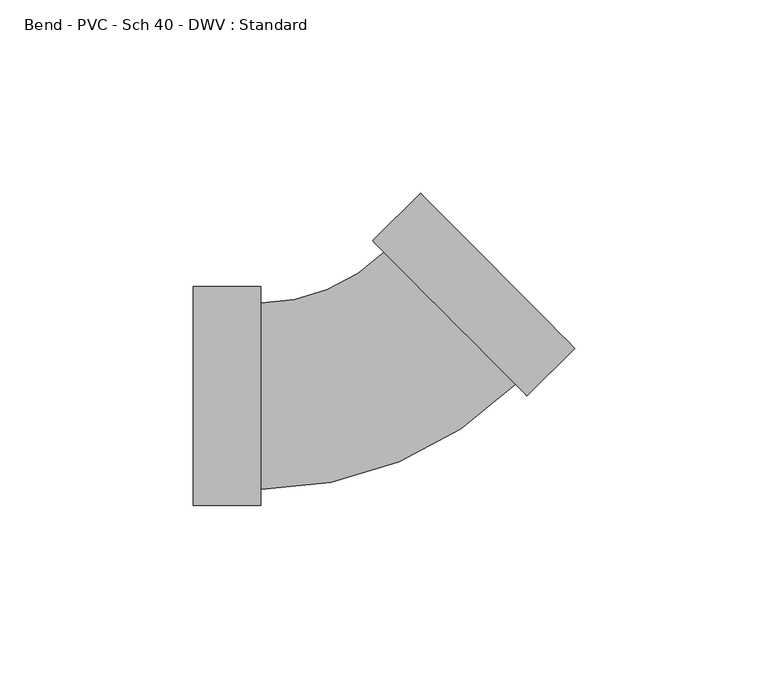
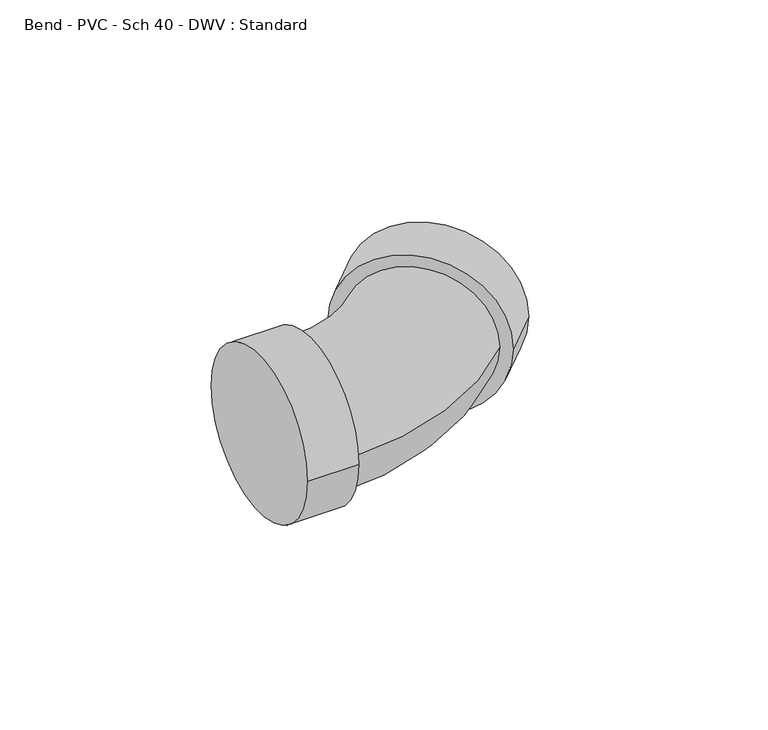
"""IFC4 building model written with IfcOpenShell, lengths in millimetres: pipe fitting geometry, Bend - PVC - Sch 40 - DWV : Standard."""

from ifc_helpers import new_model, si_unit, point, frame, origin, place, context, project, spatial, circle_curve, ellipse_curve, trimmed, source, transform, mapped, element, save
from ifc_brep_helpers import plane_surface, cylinder_surface, revolved_surface, advanced_brep


def bend_pvc_sch_40_dwv_standard_9b1ab2e2(model_context):
    return source(origin(), model_context, "Body", "AdvancedBrep", [
        advanced_brep(
        [(-46.0248, -28.2829, 0.0), (-46.0248, 28.2829, 0.0), (-28.575, -28.2829, 0.0), (-28.575, 28.2829, 0.0), (-28.575, -24.13, 0.0), (-28.575, 24.13, 0.0), (3.2900578, 37.255376, 0.0), (37.28017, 2.9960726, 0.0), (40.2051086, 0.0479694, 0.0), (0.3651192, 40.2034793, 0.0), (52.5925515, 12.3380783, 0.0), (12.7525621, 52.4935882, 0.0)],
        [
            (0, 1, circle_curve(frame((-46.0248, 0.0, 0.0), z_axis=(-1.0, 0.0, 0.0), x_axis=(0.0, 1.0, 0.0)), 28.2829)),
            (1, 0, circle_curve(frame((-46.0248, 0.0, 0.0), z_axis=(-1.0, 0.0, 0.0), x_axis=(0.0, 1.0, 0.0)), 28.2829)),
            (2, 3, circle_curve(frame((-28.575, 0.0, 0.0), z_axis=(1.0, 0.0, 0.0), x_axis=(0.0, 1.0, 0.0)), 28.2829)),
            (3, 2, circle_curve(frame((-28.575, 0.0, 0.0), z_axis=(1.0, 0.0, 0.0), x_axis=(0.0, 1.0, 0.0)), 28.2829)),
            (4, 5, circle_curve(frame((-28.575, 0.0, 0.0), z_axis=(-1.0, 0.0, 0.0), x_axis=(0.0, 1.0, 0.0)), 24.13)),
            (5, 4, circle_curve(frame((-28.575, 0.0, 0.0), z_axis=(-1.0, 0.0, 0.0), x_axis=(0.0, 1.0, 0.0)), 24.13)),
            (0, 2),
            (3, 1),
            (6, 5, circle_curve(frame((-28.575, 69.3727954, 0.0), z_axis=(0.0, 0.0, -1.0), x_axis=(0.0, -1.0, 0.0)), 45.2427954)),
            (4, 7, circle_curve(frame((-28.575, 69.3727954, 0.0), z_axis=(0.0, 0.0, 1.0), x_axis=(0.0, -1.0, 0.0)), 93.5027954)),
            (7, 6, circle_curve(frame((20.2851139, 20.1257243, 0.0), z_axis=(-0.7098902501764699, -0.7043123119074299, 0.0), x_axis=(-0.7043123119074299, 0.7098902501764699, 0.0)), 24.13)),
            (6, 7, circle_curve(frame((20.2851139, 20.1257243, 0.0), z_axis=(-0.7098902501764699, -0.7043123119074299, 0.0), x_axis=(-0.7043123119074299, 0.7098902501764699, 0.0)), 24.13)),
            (8, 9, circle_curve(frame((20.2851139, 20.1257243, 0.0), z_axis=(-0.709890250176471, -0.7043123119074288, 0.0), x_axis=(-0.7043123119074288, 0.709890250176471, 0.0)), 28.2829)),
            (9, 8, circle_curve(frame((20.2851139, 20.1257243, 0.0), z_axis=(-0.709890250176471, -0.7043123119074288, 0.0), x_axis=(-0.7043123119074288, 0.709890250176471, 0.0)), 28.2829)),
            (10, 11, circle_curve(frame((32.6725568, 32.4158333, 0.0), z_axis=(0.709890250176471, 0.7043123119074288, 0.0), x_axis=(-0.7043123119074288, 0.709890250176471, 0.0)), 28.2829)),
            (11, 10, circle_curve(frame((32.6725568, 32.4158333, 0.0), z_axis=(0.709890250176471, 0.7043123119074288, 0.0), x_axis=(-0.7043123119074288, 0.709890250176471, 0.0)), 28.2829)),
            (8, 10),
            (11, 9),
        ],
        [
            plane_surface(frame((-46.0248, 0.0, 0.0), z_axis=(-1.0, 0.0, 0.0), x_axis=(0.0, 0.0, 1.0))),
            plane_surface(frame((-28.575, 0.0, 0.0), z_axis=(1.0, 0.0, 0.0), x_axis=(0.0, 0.0, 1.0))),
            cylinder_surface(frame((-46.0248, 0.0, 0.0), z_axis=(-1.0, 0.0, 0.0), x_axis=(0.0, 1.0, 0.0)), 28.2829),
            revolved_surface(trimmed(ellipse_curve(frame((-28.575, 0.0, 0.0), z_axis=(-1.0, 0.0, 0.0), x_axis=(0.0, 1.0, 0.0)), 24.13, 24.13), [point((-28.575, -24.13, 0.0))], [point((-28.575, 24.13, 0.0))], True, "CARTESIAN"), (-28.575, 69.3727954, 0.0), (0.0, 0.0, 1.0)),
            revolved_surface(trimmed(ellipse_curve(frame((-28.575, 0.0, 0.0), z_axis=(-1.0, 0.0, 0.0), x_axis=(0.0, 1.0, 0.0)), 24.13, 24.13), [point((-28.575, 24.13, 0.0))], [point((-28.575, -24.13, 0.0))], True, "CARTESIAN"), (-28.575, 69.3727954, 0.0), (0.0, 0.0, 1.0)),
            plane_surface(frame((20.2851139, 20.1257243, 0.0), z_axis=(-0.709890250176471, -0.7043123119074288, 0.0), x_axis=(0.0, 0.0, 1.0))),
            plane_surface(frame((32.6725568, 32.4158333, 0.0), z_axis=(0.709890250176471, 0.7043123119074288, 0.0), x_axis=(0.0, 0.0, 1.0))),
            cylinder_surface(frame((20.2851139, 20.1257243, 0.0), z_axis=(-0.709890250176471, -0.7043123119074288, 0.0), x_axis=(-0.7043123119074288, 0.709890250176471, 0.0)), 28.2829),
        ],
        [
            (0, [[1, 2]]),
            (1, [[3, 4], [5, 6]]),
            (2, [[-1, 7, -4, 8]]),
            (2, [[-2, -8, -3, -7]]),
            (3, [[9, -5, 10, 11]]),
            (4, [[-9, 12, -10, -6]]),
            (5, [[13, 14], [-11, -12]]),
            (6, [[15, 16]]),
            (7, [[-13, 17, -16, 18]]),
            (7, [[-14, -18, -15, -17]]),
        ],
    ),
    ])


if __name__ == "__main__":
    model = new_model("IFC4")
    model_context = context("Model", 3, world=origin())
    ifc_project = project(units=[si_unit("LENGTHUNIT", "METRE", prefix="MILLI")], contexts=[model_context])
    site = spatial("IfcSite", under=ifc_project)
    building = spatial("IfcBuilding", under=site)
    placement = place(None, origin())
    bend_pvc_sch_40_dwv_standard_shape = bend_pvc_sch_40_dwv_standard_9b1ab2e2(model_context)
    element("IfcPipeFitting", 1, ObjectType="Bend - PVC - Sch 40 - DWV : Standard", at=placement, inside=building, context=model_context, shape_type="MappedRepresentation", body=[
        mapped(bend_pvc_sch_40_dwv_standard_shape, transform((0.0, 0.0, 0.0), x_axis=(1.0, 0.0, 0.0), y_axis=(0.0, 1.0, 0.0), z_axis=(0.0, 0.0, 1.0))),
    ])
    save(model, "model.ifc")
